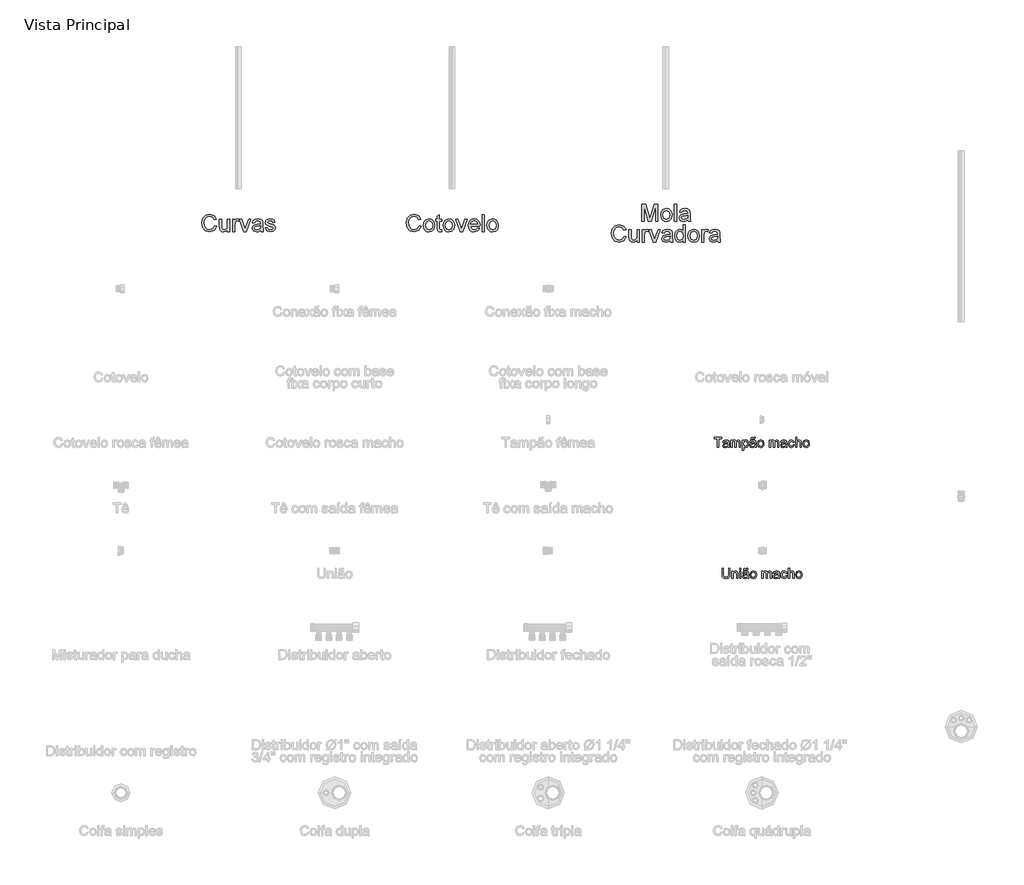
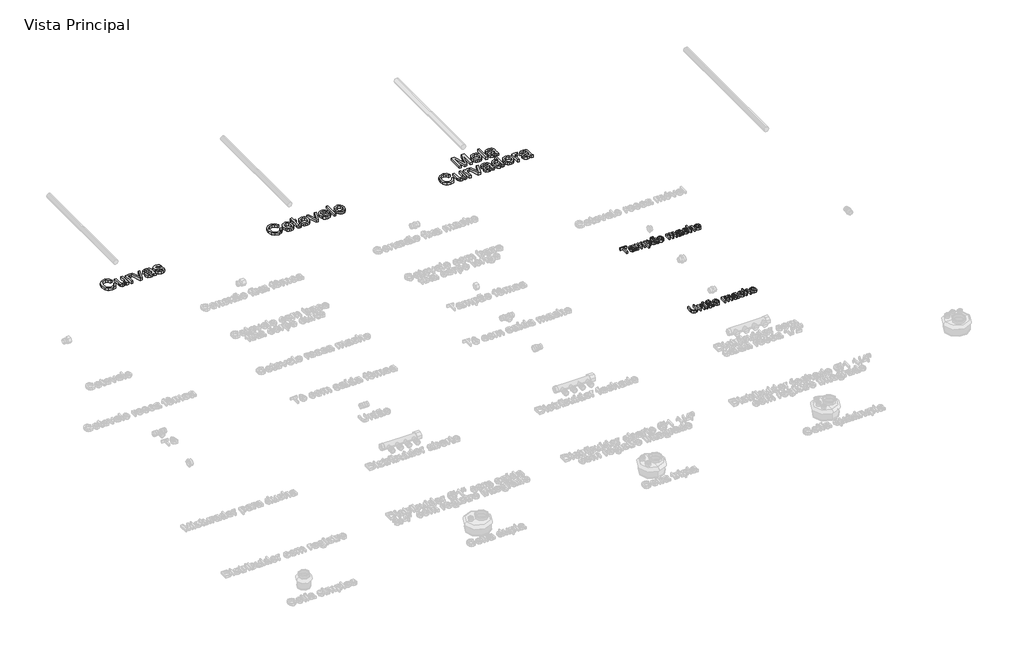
# One storey, part 12 of 12: 5 proxies.
"""IFC4 building model written with IfcOpenShell, lengths in millimetres."""

from ifc_helpers import new_model, si_unit, origin, origin_with_axes, place, context, project, spatial, polyline, outline, extrude, element, save

model = new_model("IFC4")

# Units and contexts
model_context = context("Model", 3, world=origin())
ifc_project = project(units=[si_unit("LENGTHUNIT", "METRE", prefix="MILLI")], contexts=[model_context])

# Site, building, storey
site = spatial("IfcSite", under=ifc_project)
building = spatial("IfcBuilding", under=site)
storey = spatial("IfcBuildingStorey", under=building, Name="Vista Principal", Elevation=0.0)

# Proxies
placement = place(None, origin())
element("IfcBuildingElementProxy", 1, Name="Legenda", ObjectType="Legenda", at=placement, inside=storey, context=model_context, shape_type="SweptSolid", body=[
    extrude(outline(polyline([(1012.8411911, -487.0168427), (1012.8411911, -456.2520977), (1001.3044117, -456.2520977), (1001.3044117, -451.8571341), (1028.772934, -451.8571341), (1028.772934, -456.2520977), (1017.2361546, -456.2520977), (1017.2361546, -487.0168427), (1012.8411911, -487.0168427)])), origin_with_axes(), (0.0, 0.0, 1.0), 10.0),
    extrude(outline(polyline([(1049.6490109, -483.72062), (1045.387098, -486.6992379), (1040.6788216, -487.5662131), (1034.2966822, -485.4803222), (1032.0691567, -480.1497121), (1032.9103802, -476.6732273), (1035.1207378, -474.1495568), (1038.1980707, -472.7074593), (1042.0007443, -472.046498), (1049.6232592, -470.5357293), (1048.4386792, -466.312444), (1043.5801843, -465.0420248), (1039.1337173, -465.8875403), (1037.0134907, -468.887618), (1032.6185271, -468.3382475), (1034.5198639, -464.0462909), (1038.3482892, -461.5312043), (1044.1467226, -460.6470613), (1049.4730407, -461.4281974), (1052.4817023, -463.3896215), (1053.8293767, -466.3725314), (1054.0439745, -470.2181245), (1054.0439745, -475.6860772), (1054.2671563, -483.321468), (1055.1427154, -487.0168427), (1050.7477518, -487.0168427), (1049.6490109, -483.72062)]), holes=[polyline([(1049.6361351, -475.5530266), (1042.5586986, -476.2783672), (1038.7774849, -476.990832), (1037.0649942, -478.1496603), (1036.4641202, -479.8406912), (1037.773167, -482.2184352), (1041.6144682, -483.1712496), (1046.0609352, -482.1197202), (1048.9279622, -479.5745899), (1049.6361351, -475.5530266)])]), origin_with_axes(), (0.0, 0.0, 1.0), 10.0),
    extrude(outline(polyline([(1060.0870494, -487.0168427), (1060.0870494, -461.1964317), (1064.482013, -461.1964317), (1064.482013, -465.4454688), (1067.5035504, -461.9646919), (1071.804091, -460.6470613), (1076.2076385, -461.9904437), (1078.628302, -465.7544896), (1086.3881595, -460.6470613), (1092.1350894, -462.7715798), (1094.1480171, -469.3168136), (1094.1480171, -487.0168427), (1089.7530535, -487.0168427), (1089.7530535, -471.2052745), (1089.3453176, -467.5356516), (1087.8688846, -465.7287379), (1085.3580899, -465.0420248), (1081.0360896, -466.801727), (1079.315015, -472.441358), (1079.315015, -487.0168427), (1074.9200515, -487.0168427), (1074.9200515, -470.7159915), (1073.9028578, -466.4583705), (1070.5680075, -465.0420248), (1067.3147044, -465.9862553), (1065.1515582, -468.7502753), (1064.482013, -473.9950463), (1064.482013, -487.0168427), (1060.0870494, -487.0168427)])), origin_with_axes(), (0.0, 0.0, 1.0), 10.0),
    extrude(outline(polyline([(1100.7404624, -496.9055107), (1100.7404624, -461.1964317), (1105.135426, -461.1964317), (1105.135426, -465.5055562), (1108.1741313, -461.861685), (1112.2772418, -460.6470613), (1117.8482015, -462.3466761), (1121.4877807, -467.1364997), (1122.7152803, -473.9092072), (1121.3289783, -481.0295632), (1117.303123, -485.8794742), (1111.7450392, -487.5662131), (1107.9209058, -486.4374285), (1105.135426, -483.5832774), (1105.135426, -496.9055107), (1100.7404624, -496.9055107)]), holes=[polyline([(1105.135426, -474.3126511), (1107.0367628, -481.0081034), (1111.6506161, -483.1712496), (1116.3588925, -480.9308482), (1118.3203167, -473.9864624), (1116.4061041, -467.2738423), (1111.8308783, -465.0420248), (1107.1655215, -467.4154768), (1105.135426, -474.3126511)])]), origin_with_axes(), (0.0, 0.0, 1.0), 10.0),
    extrude(outline(polyline([(1144.1407277, -483.72062), (1139.8788148, -486.6992379), (1135.1705384, -487.5662131), (1128.7883989, -485.4803222), (1126.5608734, -480.1497121), (1127.4020969, -476.6732273), (1129.6124546, -474.1495568), (1132.6897874, -472.7074593), (1136.492461, -472.046498), (1144.1149759, -470.5357293), (1142.9303959, -466.312444), (1138.071901, -465.0420248), (1133.625434, -465.8875403), (1131.5052074, -468.887618), (1127.1102439, -468.3382475), (1129.0115806, -464.0462909), (1132.8400059, -461.5312043), (1138.6384393, -460.6470613), (1143.9647575, -461.4281974), (1146.973419, -463.3896215), (1148.3210934, -466.3725314), (1148.5356913, -470.2181245), (1148.5356913, -475.6860772), (1148.758873, -483.321468), (1149.6344321, -487.0168427), (1145.2394686, -487.0168427), (1144.1407277, -483.72062)]), holes=[polyline([(1144.1278518, -475.5530266), (1137.0504154, -476.2783672), (1133.2692016, -476.990832), (1131.5567109, -478.1496603), (1130.955837, -479.8406912), (1132.2648837, -482.2184352), (1136.1061849, -483.1712496), (1140.552652, -482.1197202), (1143.419679, -479.5745899), (1144.1278518, -475.5530266)])]), origin_with_axes(), (0.0, 0.0, 1.0), 10.0),
    extrude(outline(polyline([(1130.4064665, -458.4495795), (1131.7713087, -453.651172), (1135.2649614, -451.8571341), (1138.7843658, -453.2734798), (1140.5612359, -454.0546159), (1141.9432459, -451.8571341), (1145.788839, -451.8571341), (1144.3939531, -456.8014681), (1141.0247672, -458.4495795), (1137.5482823, -457.110489), (1135.6941571, -456.2520977), (1134.2520597, -458.4495795), (1130.4064665, -458.4495795)])), origin_with_axes(), (0.0, 0.0, 1.0), 10.0),
    extrude(outline(polyline([(1153.4800253, -474.1066372), (1157.2826988, -463.5055044), (1165.0253886, -460.6470613), (1173.3303246, -464.1278381), (1176.553584, -473.7461128), (1175.1286544, -481.5660578), (1170.9783324, -485.9910651), (1165.0253886, -487.5662131), (1156.668949, -484.0983122), (1153.4800253, -474.1066372)]), holes=[polyline([(1157.8749888, -474.0980533), (1159.9093763, -480.9093884), (1165.0253886, -483.1712496), (1170.124233, -480.8965126), (1172.1586204, -473.9607107), (1170.1113571, -467.303886), (1165.0253886, -465.0420248), (1159.9093763, -467.2953021), (1157.8749888, -474.0980533)])]), origin_with_axes(), (0.0, 0.0, 1.0), 10.0),
    extrude(outline(polyline([(1195.2321792, -487.0168427), (1195.2321792, -461.1964317), (1199.6271427, -461.1964317), (1199.6271427, -465.4454688), (1202.6486802, -461.9646919), (1206.9492207, -460.6470613), (1211.3527682, -461.9904437), (1213.7734317, -465.7544896), (1221.5332893, -460.6470613), (1227.2802192, -462.7715798), (1229.2931468, -469.3168136), (1229.2931468, -487.0168427), (1224.8981833, -487.0168427), (1224.8981833, -471.2052745), (1224.4904474, -467.5356516), (1223.0140143, -465.7287379), (1220.5032197, -465.0420248), (1216.1812194, -466.801727), (1214.4601448, -472.441358), (1214.4601448, -487.0168427), (1210.0651812, -487.0168427), (1210.0651812, -470.7159915), (1209.0479875, -466.4583705), (1205.7131372, -465.0420248), (1202.4598341, -465.9862553), (1200.296688, -468.7502753), (1199.6271427, -473.9950463), (1199.6271427, -487.0168427), (1195.2321792, -487.0168427)])), origin_with_axes(), (0.0, 0.0, 1.0), 10.0),
    extrude(outline(polyline([(1252.3667056, -483.72062), (1248.1047927, -486.6992379), (1243.3965163, -487.5662131), (1237.0143768, -485.4803222), (1234.7868513, -480.1497121), (1235.6280748, -476.6732273), (1237.8384324, -474.1495568), (1240.9157653, -472.7074593), (1244.7184389, -472.046498), (1252.3409538, -470.5357293), (1251.1563738, -466.312444), (1246.2978789, -465.0420248), (1241.8514119, -465.8875403), (1239.7311853, -468.887618), (1235.3362217, -468.3382475), (1237.2375585, -464.0462909), (1241.0659838, -461.5312043), (1246.8644172, -460.6470613), (1252.1907354, -461.4281974), (1255.1993969, -463.3896215), (1256.5470713, -466.3725314), (1256.7616691, -470.2181245), (1256.7616691, -475.6860772), (1256.9848509, -483.321468), (1257.86041, -487.0168427), (1253.4654465, -487.0168427), (1252.3667056, -483.72062)]), holes=[polyline([(1252.3538297, -475.5530266), (1245.2763933, -476.2783672), (1241.4951795, -476.990832), (1239.7826888, -478.1496603), (1239.1818149, -479.8406912), (1240.4908616, -482.2184352), (1244.3321628, -483.1712496), (1248.7786298, -482.1197202), (1251.6456569, -479.5745899), (1252.3538297, -475.5530266)])]), origin_with_axes(), (0.0, 0.0, 1.0), 10.0),
    extrude(outline(polyline([(1279.2858574, -477.6775451), (1283.680821, -478.2269155), (1280.1528327, -485.0897542), (1273.1826951, -487.5662131), (1264.8520074, -484.1111881), (1261.7060032, -474.2010602), (1263.0493856, -466.900442), (1267.1439122, -462.2093335), (1273.1226077, -460.6470613), (1279.8051842, -462.7930396), (1283.1314506, -468.887618), (1278.736487, -469.4369884), (1276.6978076, -466.1450577), (1273.1569434, -465.0420248), (1268.0623909, -467.2137549), (1266.1009667, -474.0808855), (1268.0194713, -481.0123954), (1273.0367686, -483.1712496), (1277.1785067, -481.8235752), (1279.2858574, -477.6775451)])), origin_with_axes(), (0.0, 0.0, 1.0), 10.0),
    extrude(outline(polyline([(1287.5264141, -487.0168427), (1287.5264141, -451.8571341), (1291.9213777, -451.8571341), (1291.9213777, -464.7845074), (1299.5696444, -460.6470613), (1304.5053945, -461.7758459), (1307.5011802, -464.8960983), (1308.4024911, -470.6730719), (1308.4024911, -487.0168427), (1304.0075275, -487.0168427), (1304.0075275, -471.1280193), (1302.6083497, -466.4927062), (1298.6425817, -465.0420248), (1295.0416301, -466.0205909), (1292.6381344, -468.6730201), (1291.9213777, -473.2997494), (1291.9213777, -487.0168427), (1287.5264141, -487.0168427)])), origin_with_axes(), (0.0, 0.0, 1.0), 10.0),
    extrude(outline(polyline([(1313.3468251, -474.1066372), (1317.1494986, -463.5055044), (1324.8921884, -460.6470613), (1333.1971244, -464.1278381), (1336.4203838, -473.7461128), (1334.9954542, -481.5660578), (1330.8451322, -485.9910651), (1324.8921884, -487.5662131), (1316.5357489, -484.0983122), (1313.3468251, -474.1066372)]), holes=[polyline([(1317.7417887, -474.0980533), (1319.7761761, -480.9093884), (1324.8921884, -483.1712496), (1329.9910328, -480.8965126), (1332.0254203, -473.9607107), (1329.978157, -467.303886), (1324.8921884, -465.0420248), (1319.7761761, -467.2953021), (1317.7417887, -474.0980533)])]), origin_with_axes(), (0.0, 0.0, 1.0), 10.0),
])
element("IfcBuildingElementProxy", 2, Name="Legenda", ObjectType="Legenda", at=placement, inside=storey, context=model_context, shape_type="SweptSolid", body=[
    extrude(outline(polyline([(1052.6705484, -911.8571341), (1057.065512, -911.8571341), (1057.065512, -932.1409211), (1055.872348, -940.5488641), (1051.5718075, -945.6133729), (1043.41709, -947.5662131), (1035.3868391, -945.8665983), (1030.9317882, -940.9437241), (1029.5969897, -932.1409211), (1029.5969897, -911.8571341), (1033.9919532, -911.8571341), (1033.9919532, -931.9864106), (1034.8589285, -938.6861549), (1037.8375464, -942.0038374), (1043.0050621, -943.1712496), (1050.4473149, -940.8621769), (1052.6705484, -931.9864106), (1052.6705484, -911.8571341)])), origin_with_axes(), (0.0, 0.0, 1.0), 10.0),
    extrude(outline(polyline([(1064.2073278, -947.0168427), (1064.2073278, -921.1964317), (1068.6022913, -921.1964317), (1068.6022913, -924.8016753), (1076.550995, -920.6470613), (1080.701317, -921.4839928), (1083.5340084, -923.6814746), (1084.8516391, -926.9133179), (1085.0834047, -931.162355), (1085.0834047, -947.0168427), (1080.6884412, -947.0168427), (1080.6884412, -931.754645), (1080.1819903, -927.8661323), (1078.3922444, -925.8102851), (1075.3749989, -925.0420248), (1070.6066351, -926.7673914), (1068.6022913, -933.3169172), (1068.6022913, -947.0168427), (1064.2073278, -947.0168427)])), origin_with_axes(), (0.0, 0.0, 1.0), 10.0),
    extrude(outline(polyline([(1091.1264796, -947.0168427), (1091.1264796, -921.1964317), (1095.5214432, -921.1964317), (1095.5214432, -947.0168427), (1091.1264796, -947.0168427)])), origin_with_axes(), (0.0, 0.0, 1.0), 10.0),
    extrude(outline(polyline([(1091.1264796, -916.2520977), (1091.1264796, -911.8571341), (1095.5214432, -911.8571341), (1095.5214432, -916.2520977), (1091.1264796, -916.2520977)])), origin_with_axes(), (0.0, 0.0, 1.0), 10.0),
    extrude(outline(polyline([(1118.5950019, -943.72062), (1114.333089, -946.6992379), (1109.6248126, -947.5662131), (1103.2426731, -945.4803222), (1101.0151477, -940.1497121), (1101.8563712, -936.6732273), (1104.0667288, -934.1495568), (1107.1440617, -932.7074593), (1110.9467353, -932.046498), (1118.5692502, -930.5357293), (1117.3846702, -926.312444), (1112.5261753, -925.0420248), (1108.0797082, -925.8875403), (1105.9594817, -928.887618), (1101.5645181, -928.3382475), (1103.4658549, -924.0462909), (1107.2942802, -921.5312043), (1113.0927136, -920.6470613), (1118.4190317, -921.4281974), (1121.4276933, -923.3896215), (1122.7753677, -926.3725314), (1122.9899655, -930.2181245), (1122.9899655, -935.6860772), (1123.2131473, -943.321468), (1124.0887064, -947.0168427), (1119.6937428, -947.0168427), (1118.5950019, -943.72062)]), holes=[polyline([(1118.5821261, -935.5530266), (1111.5046896, -936.2783672), (1107.7234758, -936.990832), (1106.0109852, -938.1496603), (1105.4101112, -939.8406912), (1106.719158, -942.2184352), (1110.5604592, -943.1712496), (1115.0069262, -942.1197202), (1117.8739532, -939.5745899), (1118.5821261, -935.5530266)])]), origin_with_axes(), (0.0, 0.0, 1.0), 10.0),
    extrude(outline(polyline([(1104.8607408, -918.4495795), (1106.225583, -913.651172), (1109.7192357, -911.8571341), (1113.2386401, -913.2734798), (1115.0155101, -914.0546159), (1116.3975202, -911.8571341), (1120.2431133, -911.8571341), (1118.8482274, -916.8014681), (1115.4790414, -918.4495795), (1112.0025566, -917.110489), (1110.1484313, -916.2520977), (1108.7063339, -918.4495795), (1104.8607408, -918.4495795)])), origin_with_axes(), (0.0, 0.0, 1.0), 10.0),
    extrude(outline(polyline([(1127.9342995, -934.1066372), (1131.7369731, -923.5055044), (1139.4796628, -920.6470613), (1147.7845988, -924.1278381), (1151.0078583, -933.7461128), (1149.5829287, -941.5660578), (1145.4326066, -945.9910651), (1139.4796628, -947.5662131), (1131.1232233, -944.0983122), (1127.9342995, -934.1066372)]), holes=[polyline([(1132.3292631, -934.0980533), (1134.3636505, -940.9093884), (1139.4796628, -943.1712496), (1144.5785073, -940.8965126), (1146.6128947, -933.9607107), (1144.5656314, -927.303886), (1139.4796628, -925.0420248), (1134.3636505, -927.2953021), (1132.3292631, -934.0980533)])]), origin_with_axes(), (0.0, 0.0, 1.0), 10.0),
    extrude(outline(polyline([(1169.6864534, -947.0168427), (1169.6864534, -921.1964317), (1174.081417, -921.1964317), (1174.081417, -925.4454688), (1177.1029545, -921.9646919), (1181.403495, -920.6470613), (1185.8070425, -921.9904437), (1188.227706, -925.7544896), (1195.9875635, -920.6470613), (1201.7344934, -922.7715798), (1203.7474211, -929.3168136), (1203.7474211, -947.0168427), (1199.3524575, -947.0168427), (1199.3524575, -931.2052745), (1198.9447216, -927.5356516), (1197.4682886, -925.7287379), (1194.957494, -925.0420248), (1190.6354936, -926.801727), (1188.914419, -932.441358), (1188.914419, -947.0168427), (1184.5194555, -947.0168427), (1184.5194555, -930.7159915), (1183.5022618, -926.4583705), (1180.1674115, -925.0420248), (1176.9141084, -925.9862553), (1174.7509622, -928.7502753), (1174.081417, -933.9950463), (1174.081417, -947.0168427), (1169.6864534, -947.0168427)])), origin_with_axes(), (0.0, 0.0, 1.0), 10.0),
    extrude(outline(polyline([(1226.8209798, -943.72062), (1222.5590669, -946.6992379), (1217.8507905, -947.5662131), (1211.468651, -945.4803222), (1209.2411256, -940.1497121), (1210.082349, -936.6732273), (1212.2927067, -934.1495568), (1215.3700396, -932.7074593), (1219.1727131, -932.046498), (1226.7952281, -930.5357293), (1225.6106481, -926.312444), (1220.7521532, -925.0420248), (1216.3056861, -925.8875403), (1214.1854596, -928.887618), (1209.790496, -928.3382475), (1211.6918328, -924.0462909), (1215.5202581, -921.5312043), (1221.3186915, -920.6470613), (1226.6450096, -921.4281974), (1229.6536712, -923.3896215), (1231.0013456, -926.3725314), (1231.2159434, -930.2181245), (1231.2159434, -935.6860772), (1231.4391251, -943.321468), (1232.3146843, -947.0168427), (1227.9197207, -947.0168427), (1226.8209798, -943.72062)]), holes=[polyline([(1226.808104, -935.5530266), (1219.7306675, -936.2783672), (1215.9494537, -936.990832), (1214.236963, -938.1496603), (1213.6360891, -939.8406912), (1214.9451359, -942.2184352), (1218.7864371, -943.1712496), (1223.2329041, -942.1197202), (1226.0999311, -939.5745899), (1226.808104, -935.5530266)])]), origin_with_axes(), (0.0, 0.0, 1.0), 10.0),
    extrude(outline(polyline([(1253.7401317, -937.6775451), (1258.1350953, -938.2269155), (1254.6071069, -945.0897542), (1247.6369694, -947.5662131), (1239.3062816, -944.1111881), (1236.1602774, -934.2010602), (1237.5036598, -926.900442), (1241.5981864, -922.2093335), (1247.576882, -920.6470613), (1254.2594584, -922.7930396), (1257.5857248, -928.887618), (1253.1907612, -929.4369884), (1251.1520819, -926.1450577), (1247.6112176, -925.0420248), (1242.5166652, -927.2137549), (1240.555241, -934.0808855), (1242.4737456, -941.0123954), (1247.4910429, -943.1712496), (1251.632781, -941.8235752), (1253.7401317, -937.6775451)])), origin_with_axes(), (0.0, 0.0, 1.0), 10.0),
    extrude(outline(polyline([(1261.9806884, -947.0168427), (1261.9806884, -911.8571341), (1266.3756519, -911.8571341), (1266.3756519, -924.7845074), (1274.0239186, -920.6470613), (1278.9596687, -921.7758459), (1281.9554544, -924.8960983), (1282.8567653, -930.6730719), (1282.8567653, -947.0168427), (1278.4618018, -947.0168427), (1278.4618018, -931.1280193), (1277.0626239, -926.4927062), (1273.096856, -925.0420248), (1269.4959044, -926.0205909), (1267.0924087, -928.6730201), (1266.3756519, -933.2997494), (1266.3756519, -947.0168427), (1261.9806884, -947.0168427)])), origin_with_axes(), (0.0, 0.0, 1.0), 10.0),
    extrude(outline(polyline([(1287.8010993, -934.1066372), (1291.6037729, -923.5055044), (1299.3464626, -920.6470613), (1307.6513987, -924.1278381), (1310.8746581, -933.7461128), (1309.4497285, -941.5660578), (1305.2994064, -945.9910651), (1299.3464626, -947.5662131), (1290.9900231, -944.0983122), (1287.8010993, -934.1066372)]), holes=[polyline([(1292.1960629, -934.0980533), (1294.2304503, -940.9093884), (1299.3464626, -943.1712496), (1304.4453071, -940.8965126), (1306.4796945, -933.9607107), (1304.4324312, -927.303886), (1299.3464626, -925.0420248), (1294.2304503, -927.2953021), (1292.1960629, -934.0980533)])]), origin_with_axes(), (0.0, 0.0, 1.0), 10.0),
])
element("IfcBuildingElementProxy", 3, Name="Título", ObjectType="Título", at=placement, inside=storey, context=model_context, shape_type="SweptSolid", body=[
    extrude(outline(polyline([(-752.0492752, 291.9086047), (-744.515052, 289.9661878), (-753.4472268, 274.7726614), (-769.2220068, 269.5413794), (-784.9011374, 273.4997897), (-794.0981873, 284.9629926), (-797.2546148, 301.076224), (-793.6861595, 317.4543305), (-783.539974, 328.0714048), (-769.0601387, 331.6987213), (-753.9696193, 327.0045471), (-745.4568299, 313.7902258), (-752.9910531, 311.9949617), (-759.1714707, 321.2582303), (-769.3544443, 324.1644981), (-781.1413834, 320.9418518), (-787.8000475, 312.2892673), (-789.7203915, 301.0909393), (-787.4468808, 288.1120625), (-780.3688312, 279.8200024), (-769.972486, 277.0756027), (-758.4430643, 280.8132837), (-752.0492752, 291.9086047)])), origin_with_axes(), (0.0, 0.0, 1.0), 10.0),
    extrude(outline(polyline([(-706.8439357, 270.4831573), (-706.8439357, 278.090957), (-712.7447629, 271.6787738), (-720.4408542, 269.5413794), (-727.5262614, 271.042338), (-732.4117343, 274.8094496), (-734.6558145, 280.3571101), (-735.0972729, 287.3615833), (-735.0972729, 314.746719), (-727.5630496, 314.746719), (-727.5630496, 290.9079657), (-727.106876, 283.2265896), (-724.1270318, 278.7163564), (-718.5131526, 277.0756027), (-712.2223704, 278.7531446), (-708.0653039, 283.3222389), (-706.8439357, 291.7173061), (-706.8439357, 314.746719), (-699.3097124, 314.746719), (-699.3097124, 270.4831573), (-706.8439357, 270.4831573)])), origin_with_axes(), (0.0, 0.0, 1.0), 10.0),
    extrude(outline(polyline([(-688.9501554, 270.4831573), (-688.9501554, 314.746719), (-682.3577101, 314.746719), (-682.3577101, 308.1984195), (-677.6782511, 314.2316842), (-672.9693616, 315.6884969), (-665.4057077, 313.3634827), (-667.9220206, 306.6091692), (-673.2195213, 308.1542736), (-677.4795948, 306.6680304), (-680.1945639, 302.547752), (-681.4159322, 293.7480147), (-681.4159322, 270.4831573), (-688.9501554, 270.4831573)])), origin_with_axes(), (0.0, 0.0, 1.0), 10.0),
    extrude(outline(polyline([(-649.8369417, 270.4831573), (-665.4057077, 314.746719), (-657.4300261, 314.746719), (-647.9975317, 288.2297848), (-645.1574827, 279.3123252), (-642.3762948, 287.7294653), (-632.8849394, 314.746719), (-624.9092577, 314.746719), (-640.2867251, 270.4831573), (-649.8369417, 270.4831573)])), origin_with_axes(), (0.0, 0.0, 1.0), 10.0),
    extrude(outline(polyline([(-590.0634751, 276.1338248), (-597.3696115, 271.0276227), (-605.4409425, 269.5413794), (-616.3817531, 273.1171924), (-620.2003682, 282.2553812), (-618.7582707, 288.2150695), (-614.9690862, 292.5413617), (-609.6936584, 295.0135288), (-603.1747894, 296.1466053), (-590.107621, 298.7364945), (-590.0634751, 300.4140364), (-592.1383296, 305.9764122), (-600.4671779, 308.1542736), (-608.0896929, 306.7048186), (-611.724367, 301.5618283), (-619.2585903, 302.5036062), (-615.9991558, 309.8612461), (-609.436141, 314.1728231), (-599.4959695, 315.6884969), (-590.3651384, 314.3494064), (-585.2074328, 310.986965), (-582.8971339, 305.8734053), (-582.5292519, 299.2809599), (-582.5292519, 289.9073267), (-582.1466546, 276.8180853), (-580.645696, 270.4831573), (-588.1799193, 270.4831573), (-590.0634751, 276.1338248)]), holes=[polyline([(-590.0634751, 291.2022713), (-602.2182962, 288.8919724), (-608.700377, 287.6706041), (-611.6360753, 285.6840414), (-612.6661449, 282.7851312), (-610.4220647, 278.7089987), (-603.836977, 277.0756027), (-596.2144621, 278.8782244), (-591.2995586, 283.2413049), (-590.107621, 289.0685557), (-590.0634751, 291.2022713)])]), origin_with_axes(), (0.0, 0.0, 1.0), 10.0),
    extrude(outline(polyline([(-574.9950286, 283.668048), (-567.4608053, 284.6098259), (-563.973284, 279.0180196), (-555.9828871, 277.0756027), (-548.301511, 278.8561515), (-545.7999135, 283.035291), (-548.3162263, 286.4198053), (-556.0711788, 288.5682362), (-567.4166595, 292.2544138), (-572.3683512, 296.5586331), (-574.0532507, 302.6360437), (-572.6994449, 308.2499229), (-569.0059097, 312.539427), (-564.2160861, 314.7687919), (-557.7340054, 315.6884969), (-548.5663861, 314.2096113), (-542.7391353, 310.2070552), (-540.149246, 303.4453841), (-547.6834693, 302.5036062), (-550.5161606, 306.6606727), (-557.1453942, 308.1542736), (-564.3558813, 306.7268915), (-566.5190274, 303.4012382), (-565.6213954, 301.2086616), (-562.8107769, 299.5458349), (-556.3213385, 297.9418694), (-545.2628057, 294.395487), (-540.1271731, 290.3782156), (-538.2656902, 283.8299161), (-540.4509093, 276.619429), (-546.7564066, 271.388147), (-556.085894, 269.5413794), (-569.2266389, 273.1024771), (-574.9950286, 283.668048)])), origin_with_axes(), (0.0, 0.0, 1.0), 10.0),
])
element("IfcBuildingElementProxy", 4, Name="Título", ObjectType="Título", at=placement, inside=storey, context=model_context, shape_type="SweptSolid", body=[
    extrude(outline(polyline([(-34.0697241, 291.9086047), (-26.5355008, 289.9661878), (-35.4676757, 274.7726614), (-51.2424556, 269.5413794), (-66.9215863, 273.4997897), (-76.1186361, 284.9629926), (-79.2750637, 301.076224), (-75.7066083, 317.4543305), (-65.5604229, 328.0714048), (-51.0805876, 331.6987213), (-35.9900681, 327.0045471), (-27.4772787, 313.7902258), (-35.011502, 311.9949617), (-41.1919195, 321.2582303), (-51.3748932, 324.1644981), (-63.1618323, 320.9418518), (-69.8204964, 312.2892673), (-71.7408404, 301.0909393), (-69.4673297, 288.1120625), (-62.3892801, 279.8200024), (-51.9929349, 277.0756027), (-40.4635132, 280.8132837), (-34.0697241, 291.9086047)])), origin_with_axes(), (0.0, 0.0, 1.0), 10.0),
    extrude(outline(polyline([(-19.0012776, 292.6149381), (-17.3715603, 303.2871948), (-12.4824086, 310.7883087), (0.7907738, 315.6884969), (8.7057549, 314.1967354), (15.027807, 309.7214509), (19.1719977, 302.6158102), (20.5533945, 293.2329799), (18.1106581, 279.82736), (10.9958203, 272.2416333), (0.7907738, 269.5413794), (-7.2198567, 271.0276227), (-13.5345511, 275.4863525), (-17.634596, 282.7409854), (-19.0012776, 292.6149381)]), holes=[polyline([(-11.4670543, 292.6296534), (-7.979533, 280.9530789), (0.7907738, 277.0756027), (9.53165, 280.9751518), (13.0191713, 292.8650979), (9.5095771, 304.2767974), (0.7907738, 308.1542736), (-7.979533, 304.2915127), (-11.4670543, 292.6296534)])]), origin_with_axes(), (0.0, 0.0, 1.0), 10.0),
    extrude(outline(polyline([(45.0396201, 276.7665818), (45.9813981, 270.2624281), (40.3454459, 269.5413794), (34.0325908, 270.7921782), (30.883521, 274.0736856), (29.9711736, 282.6232632), (29.9711736, 307.2124957), (24.3205062, 307.2124957), (24.3205062, 314.746719), (29.9711736, 314.746719), (29.9711736, 325.5035885), (37.5053969, 329.9328877), (37.5053969, 314.746719), (45.0396201, 314.746719), (45.0396201, 307.2124957), (37.5053969, 307.2124957), (37.5053969, 282.8439924), (37.9027094, 278.9591585), (39.1902964, 277.5832798), (41.7581127, 277.0756027), (45.0396201, 276.7665818)])), origin_with_axes(), (0.0, 0.0, 1.0), 10.0),
    extrude(outline(polyline([(50.6902876, 292.6149381), (52.3200048, 303.2871948), (57.2091565, 310.7883087), (70.4823389, 315.6884969), (78.3973201, 314.1967354), (84.7193721, 309.7214509), (88.8635628, 302.6158102), (90.2449597, 293.2329799), (87.8022233, 279.82736), (80.6873855, 272.2416333), (70.4823389, 269.5413794), (62.4717085, 271.0276227), (56.157014, 275.4863525), (52.0569692, 282.7409854), (50.6902876, 292.6149381)]), holes=[polyline([(58.2245109, 292.6296534), (61.7120322, 280.9530789), (70.4823389, 277.0756027), (79.2232151, 280.9751518), (82.7107365, 292.8650979), (79.2011422, 304.2767974), (70.4823389, 308.1542736), (61.7120322, 304.2915127), (58.2245109, 292.6296534)])]), origin_with_axes(), (0.0, 0.0, 1.0), 10.0),
    extrude(outline(polyline([(109.5808374, 270.4831573), (94.0120713, 314.746719), (101.987753, 314.746719), (111.4202474, 288.2297848), (114.2602964, 279.3123252), (117.0414842, 287.7294653), (126.5328397, 314.746719), (134.5085214, 314.746719), (119.131054, 270.4831573), (109.5808374, 270.4831573)])), origin_with_axes(), (0.0, 0.0, 1.0), 10.0),
    extrude(outline(polyline([(172.091346, 283.668048), (179.4784165, 282.7262701), (172.5695926, 272.9994702), (159.7010804, 269.5413794), (150.8608761, 271.0331409), (144.058738, 275.5084254), (139.7214092, 282.676606), (138.275633, 292.2470562), (139.7361245, 302.139403), (144.1175991, 309.5375099), (150.8277667, 314.1507501), (159.2743373, 315.6884969), (167.4578723, 314.154429), (173.9969747, 309.5522252), (178.2846394, 302.1688336), (179.7138609, 292.291202), (179.6697151, 290.2604934), (145.8098563, 290.2604934), (150.1435062, 280.4748323), (159.8482332, 277.0756027), (167.2353037, 278.6501376), (172.091346, 283.668048)]), holes=[polyline([(145.8098563, 297.7947166), (172.1796377, 297.7947166), (169.1630053, 304.6226065), (159.2449067, 308.1542736), (149.9669228, 305.3362975), (145.8098563, 297.7947166)])]), origin_with_axes(), (0.0, 0.0, 1.0), 10.0),
    extrude(outline(polyline([(187.2480842, 270.4831573), (187.2480842, 330.7569434), (194.7823075, 330.7569434), (194.7823075, 270.4831573), (187.2480842, 270.4831573)])), origin_with_axes(), (0.0, 0.0, 1.0), 10.0),
    extrude(outline(polyline([(204.2000865, 292.6149381), (205.8298038, 303.2871948), (210.7189555, 310.7883087), (223.9921379, 315.6884969), (231.907119, 314.1967354), (238.2291711, 309.7214509), (242.3733618, 302.6158102), (243.7547587, 293.2329799), (241.3120222, 279.82736), (234.1971844, 272.2416333), (223.9921379, 269.5413794), (215.9815074, 271.0276227), (209.666813, 275.4863525), (205.5667682, 282.7409854), (204.2000865, 292.6149381)]), holes=[polyline([(211.7343098, 292.6296534), (215.2218311, 280.9530789), (223.9921379, 277.0756027), (232.7330141, 280.9751518), (236.2205354, 292.8650979), (232.7109412, 304.2767974), (223.9921379, 308.1542736), (215.2218311, 304.2915127), (211.7343098, 292.6296534)])]), origin_with_axes(), (0.0, 0.0, 1.0), 10.0),
])
element("IfcBuildingElementProxy", 5, Name="Título", ObjectType="Título", at=placement, inside=storey, context=model_context, shape_type="SweptSolid", body=[
    extrude(outline(polyline([(748.4216137, 307.0756027), (748.4216137, 367.3493888), (761.3857752, 367.3493888), (773.7171797, 324.866376), (776.204062, 315.9930622), (778.8969582, 325.6021399), (791.0223488, 367.3493888), (803.9865103, 367.3493888), (803.9865103, 307.0756027), (796.452287, 307.0756027), (796.452287, 359.8151655), (781.3102641, 307.0756027), (771.0978599, 307.0756027), (755.955837, 359.8151655), (755.955837, 307.0756027), (748.4216137, 307.0756027)])), origin_with_axes(), (0.0, 0.0, 1.0), 10.0),
    extrude(outline(polyline([(814.3460673, 329.2073835), (815.9757845, 339.8796402), (820.8649362, 347.3807541), (834.1381186, 352.2809422), (842.0530997, 350.7891807), (848.3751518, 346.3138963), (852.5193425, 339.2082555), (853.9007394, 329.8254253), (851.4580029, 316.4198053), (844.3431651, 308.8340786), (834.1381186, 306.1338248), (826.1274881, 307.620068), (819.8127937, 312.0787978), (815.7127489, 319.3334308), (814.3460673, 329.2073835)]), holes=[polyline([(821.8802905, 329.2220988), (825.3678118, 317.5455243), (834.1381186, 313.668048), (842.8789948, 317.5675972), (846.3665161, 329.4575433), (842.8569219, 340.8692427), (834.1381186, 344.746719), (825.3678118, 340.883958), (821.8802905, 329.2220988)])]), origin_with_axes(), (0.0, 0.0, 1.0), 10.0),
    extrude(outline(polyline([(862.3767405, 307.0756027), (862.3767405, 367.3493888), (869.9109638, 367.3493888), (869.9109638, 307.0756027), (862.3767405, 307.0756027)])), origin_with_axes(), (0.0, 0.0, 1.0), 10.0),
    extrude(outline(polyline([(909.4656359, 312.7262701), (902.1594995, 307.620068), (894.0881685, 306.1338248), (883.147358, 309.7096378), (879.3287429, 318.8478265), (880.7708403, 324.8075148), (884.5600249, 329.1338071), (889.8354527, 331.6059741), (896.3543216, 332.7390507), (909.4214901, 335.3289399), (909.4656359, 337.0064818), (907.3907815, 342.5688576), (899.0619331, 344.746719), (891.4394182, 343.2972639), (887.804744, 338.1542736), (880.2705208, 339.0960515), (883.5299553, 346.4536914), (890.0929701, 350.7652684), (900.0331416, 352.2809422), (909.1639727, 350.9418518), (914.3216783, 347.5794103), (916.6319772, 342.4658506), (916.9998592, 335.8734053), (916.9998592, 326.499772), (917.3824565, 313.4105306), (918.883415, 307.0756027), (911.3491917, 307.0756027), (909.4656359, 312.7262701)]), holes=[polyline([(909.4656359, 327.7947166), (897.3108148, 325.4844177), (890.828734, 324.2630495), (887.8930357, 322.2764867), (886.8629661, 319.3775766), (889.1070463, 315.3014441), (895.692134, 313.668048), (903.314649, 315.4706698), (908.2295524, 319.8337503), (909.4214901, 325.6610011), (909.4656359, 327.7947166)])]), origin_with_axes(), (0.0, 0.0, 1.0), 10.0),
    extrude(outline(polyline([(685.7933829, 255.3161594), (693.3276061, 253.3737424), (684.3954313, 238.180216), (668.6206513, 232.9489341), (652.9415207, 236.9073443), (643.7444708, 248.3705473), (640.5880433, 264.4837787), (644.1564986, 280.8618851), (654.3026841, 291.4789595), (668.7825194, 295.106276), (683.8730388, 290.4121017), (692.3858282, 277.1977804), (684.8516049, 275.4025163), (678.6711874, 284.6657849), (668.4882138, 287.5720527), (656.7012747, 284.3494064), (650.0426106, 275.6968219), (648.1222666, 264.498494), (650.3957773, 251.5196172), (657.4738269, 243.227557), (667.8701721, 240.4831573), (679.3995938, 244.2208384), (685.7933829, 255.3161594)])), origin_with_axes(), (0.0, 0.0, 1.0), 10.0),
    extrude(outline(polyline([(730.9987224, 233.890712), (730.9987224, 241.4985116), (725.0978952, 235.0863284), (717.4018039, 232.9489341), (710.3163967, 234.4498926), (705.4309238, 238.2170042), (703.1868436, 243.7646647), (702.7453852, 250.7691379), (702.7453852, 278.1542736), (710.2796085, 278.1542736), (710.2796085, 254.3155203), (710.7357821, 246.6341443), (713.7156263, 242.123911), (719.3295055, 240.4831573), (725.6202877, 242.1606992), (729.7773542, 246.7297936), (730.9987224, 255.1248607), (730.9987224, 278.1542736), (738.5329457, 278.1542736), (738.5329457, 233.890712), (730.9987224, 233.890712)])), origin_with_axes(), (0.0, 0.0, 1.0), 10.0),
    extrude(outline(polyline([(748.8925027, 233.890712), (748.8925027, 278.1542736), (755.484948, 278.1542736), (755.484948, 271.6059741), (760.164407, 277.6392388), (764.8732965, 279.0960515), (772.4369504, 276.7710373), (769.9206375, 270.0167239), (764.6231368, 271.5618283), (760.3630633, 270.075585), (757.6480942, 265.9553067), (756.4267259, 257.1555693), (756.4267259, 233.890712), (748.8925027, 233.890712)])), origin_with_axes(), (0.0, 0.0, 1.0), 10.0),
    extrude(outline(polyline([(788.0057164, 233.890712), (772.4369504, 278.1542736), (780.412632, 278.1542736), (789.8451264, 251.6373394), (792.6851754, 242.7198798), (795.4663633, 251.1370199), (804.9577187, 278.1542736), (812.9334004, 278.1542736), (797.555933, 233.890712), (788.0057164, 233.890712)])), origin_with_axes(), (0.0, 0.0, 1.0), 10.0),
    extrude(outline(polyline([(847.779183, 239.5413794), (840.4730465, 234.4351773), (832.4017156, 232.9489341), (821.460905, 236.5247471), (817.6422899, 245.6629358), (819.0843873, 251.6226241), (822.8735719, 255.9489164), (828.1489997, 258.4210834), (834.6678687, 259.5541599), (847.7350371, 262.1440492), (847.779183, 263.8215911), (845.7043285, 269.3839669), (837.3754801, 271.5618283), (829.7529652, 270.1123732), (826.1182911, 264.9693829), (818.5840678, 265.9111608), (821.8435023, 273.2688007), (828.4065171, 277.5803777), (838.3466886, 279.0960515), (847.4775197, 277.7569611), (852.6352253, 274.3945196), (854.9455242, 269.2809599), (855.3134062, 262.6885145), (855.3134062, 253.3148813), (855.6960035, 240.2256399), (857.196962, 233.890712), (849.6627388, 233.890712), (847.779183, 239.5413794)]), holes=[polyline([(847.779183, 254.6098259), (835.6243619, 252.299527), (829.1422811, 251.0781588), (826.2065828, 249.091596), (825.1765132, 246.1926859), (827.4205934, 242.1165534), (834.0056811, 240.4831573), (841.628196, 242.2857791), (846.5430995, 246.6488596), (847.7350371, 252.4761104), (847.779183, 254.6098259)])]), origin_with_axes(), (0.0, 0.0, 1.0), 10.0),
    extrude(outline(polyline([(892.9845225, 233.890712), (892.9845225, 240.9981921), (887.9997215, 234.9612486), (881.1092917, 232.9489341), (871.7798043, 235.8625595), (865.187359, 243.9927516), (862.8476295, 255.978347), (865.003418, 267.9713), (871.4634258, 276.226572), (881.0798612, 279.0960515), (888.0254732, 277.04327), (892.9845225, 271.7089811), (892.9845225, 294.1644981), (900.5187458, 294.1644981), (900.5187458, 233.890712), (892.9845225, 233.890712)]), holes=[polyline([(870.3818528, 256.0077775), (873.7810824, 244.3459183), (881.8009099, 240.4831573), (889.7250881, 244.1693349), (892.9845225, 255.4338816), (889.6662269, 267.6622791), (881.491889, 271.5618283), (873.5603532, 267.8167896), (870.3818528, 256.0077775)])]), origin_with_axes(), (0.0, 0.0, 1.0), 10.0),
    extrude(outline(polyline([(909.9365249, 256.0224928), (911.5662421, 266.6947495), (916.4553938, 274.1958634), (929.7285762, 279.0960515), (937.6435573, 277.60429), (943.9656094, 273.1290056), (948.1098001, 266.0233648), (949.491197, 256.6405345), (947.0484606, 243.2349146), (939.9336228, 235.6491879), (929.7285762, 232.9489341), (921.7179458, 234.4351773), (915.4032513, 238.8939071), (911.3032065, 246.14854), (909.9365249, 256.0224928)]), holes=[polyline([(917.4707481, 256.0372081), (920.9582695, 244.3606335), (929.7285762, 240.4831573), (938.4694524, 244.3827065), (941.9569737, 256.2726526), (938.4473795, 267.684352), (929.7285762, 271.5618283), (920.9582695, 267.6990673), (917.4707481, 256.0372081)])]), origin_with_axes(), (0.0, 0.0, 1.0), 10.0),
    extrude(outline(polyline([(957.9671982, 233.890712), (957.9671982, 278.1542736), (964.5596435, 278.1542736), (964.5596435, 271.6059741), (969.2391025, 277.6392388), (973.947992, 279.0960515), (981.5116459, 276.7710373), (978.995333, 270.0167239), (973.6978323, 271.5618283), (969.4377588, 270.075585), (966.7227897, 265.9553067), (965.5014214, 257.1555693), (965.5014214, 233.890712), (957.9671982, 233.890712)])), origin_with_axes(), (0.0, 0.0, 1.0), 10.0),
    extrude(outline(polyline([(1014.4738726, 239.5413794), (1007.1677362, 234.4351773), (999.0964052, 232.9489341), (988.1555947, 236.5247471), (984.3369796, 245.6629358), (985.779077, 251.6226241), (989.5682616, 255.9489164), (994.8436894, 258.4210834), (1001.3625583, 259.5541599), (1014.4297268, 262.1440492), (1014.4738726, 263.8215911), (1012.3990182, 269.3839669), (1004.0701698, 271.5618283), (996.4476549, 270.1123732), (992.8129808, 264.9693829), (985.2787575, 265.9111608), (988.538192, 273.2688007), (995.1012068, 277.5803777), (1005.0413783, 279.0960515), (1014.1722094, 277.7569611), (1019.329915, 274.3945196), (1021.6402139, 269.2809599), (1022.0080959, 262.6885145), (1022.0080959, 253.3148813), (1022.3906932, 240.2256399), (1023.8916517, 233.890712), (1016.3574284, 233.890712), (1014.4738726, 239.5413794)]), holes=[polyline([(1014.4738726, 254.6098259), (1002.3190515, 252.299527), (995.8369708, 251.0781588), (992.9012724, 249.091596), (991.8712028, 246.1926859), (994.115283, 242.1165534), (1000.7003707, 240.4831573), (1008.3228857, 242.2857791), (1013.2377891, 246.6488596), (1014.4297268, 252.4761104), (1014.4738726, 254.6098259)])]), origin_with_axes(), (0.0, 0.0, 1.0), 10.0),
])

save(model, "model.ifc")
